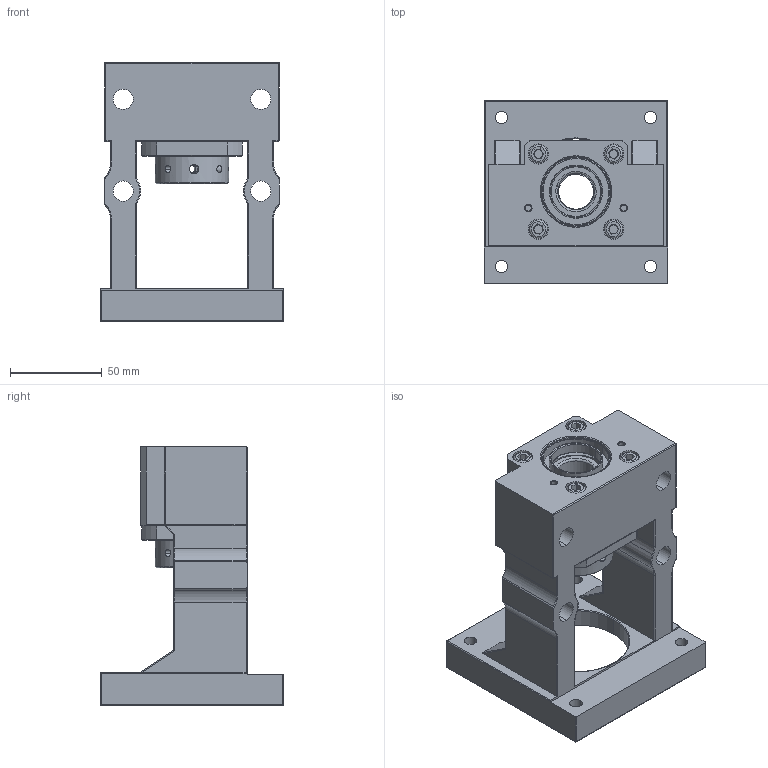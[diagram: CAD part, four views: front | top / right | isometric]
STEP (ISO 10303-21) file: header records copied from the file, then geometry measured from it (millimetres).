
FILE_DESCRIPTION (( 'STEP AP203' ), '1' );
FILE_NAME ('MBCS20-Y.STEP', '2017-12-28T07:52:24', ( '' ), ( '' ), 'SwSTEP 2.0', 'SolidWorks 2017', '' );
FILE_SCHEMA (( 'CONFIG_CONTROL_DESIGN' ));
Length unit declared in the file: millimetre
Products named in the file (1): MBCS20-Y
Bounding box: 100 x 100 x 141 mm (x, y, z)
Surface area: 86123.1 mm2 (no closed solid volume)
Topology: 0 solids, 18 shells, 354 faces, 908 edges, 563 vertices
Faces by surface type: cylinder 149, plane 93, torus 50, cone 50, sphere 12
Entity records: 11426 total; most frequent: CARTESIAN_POINT 2716, DIRECTION 1946, ORIENTED_EDGE 1652, EDGE_CURVE 884, AXIS2_PLACEMENT_3D 777, VERTEX_POINT 557, CIRCLE 422, EDGE_LOOP 420
